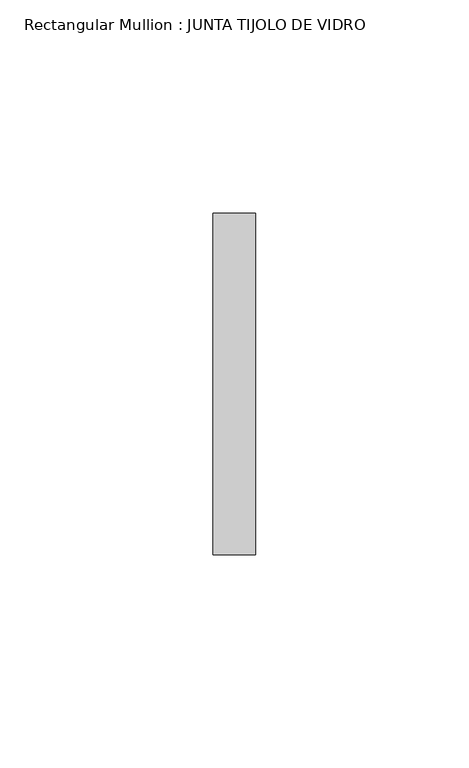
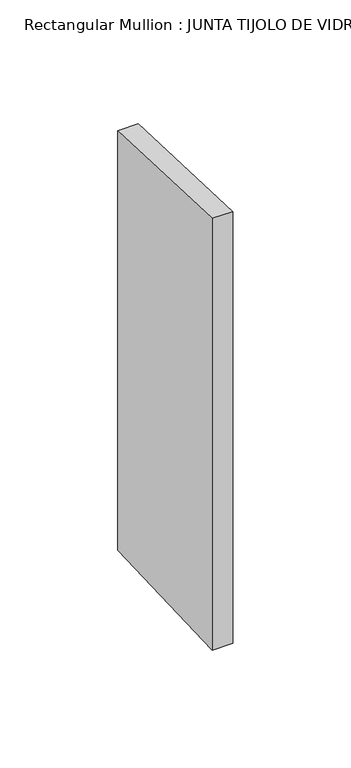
"""IFC4 building model written with IfcOpenShell, lengths in millimetres: member geometry, Rectangular Mullion : JUNTA TIJOLO DE VIDRO."""

from ifc_helpers import new_model, si_unit, frame, origin, place, context, project, spatial, polyline, outline, extrude, source, transform, mapped, element, save


def rectangular_mullion_junta_tijolo_de_vidro_b7994c95(model_context):
    return source(origin(), model_context, "Body", "SweptSolid", [
        extrude(outline(polyline([(-40.0, 1.5683228), (40.0, -1.5683228), (40.0, -218.7561819), (-40.0, -221.8575793), (-40.0, 1.5683228)])), frame((-5.0, 0.0, 0.0), z_axis=(1.0, 0.0, 0.0), x_axis=(0.0, 1.0, 0.0)), (0.0, 0.0, 1.0), 10.0),
    ])


if __name__ == "__main__":
    model = new_model("IFC4")
    model_context = context("Model", 3, world=origin())
    ifc_project = project(units=[si_unit("LENGTHUNIT", "METRE", prefix="MILLI")], contexts=[model_context])
    site = spatial("IfcSite", under=ifc_project)
    building = spatial("IfcBuilding", under=site)
    placement = place(None, origin())
    rectangular_mullion_junta_tijolo_de_vidro_shape = rectangular_mullion_junta_tijolo_de_vidro_b7994c95(model_context)
    element("IfcMember", 1, ObjectType="Rectangular Mullion : JUNTA TIJOLO DE VIDRO", at=placement, inside=building, context=model_context, shape_type="MappedRepresentation", body=[
        mapped(rectangular_mullion_junta_tijolo_de_vidro_shape, transform((0.0, 0.0, 0.0), x_axis=(1.0, 0.0, 0.0), y_axis=(0.0, 1.0, 0.0), z_axis=(0.0, 0.0, 1.0))),
    ])
    save(model, "model.ifc")
